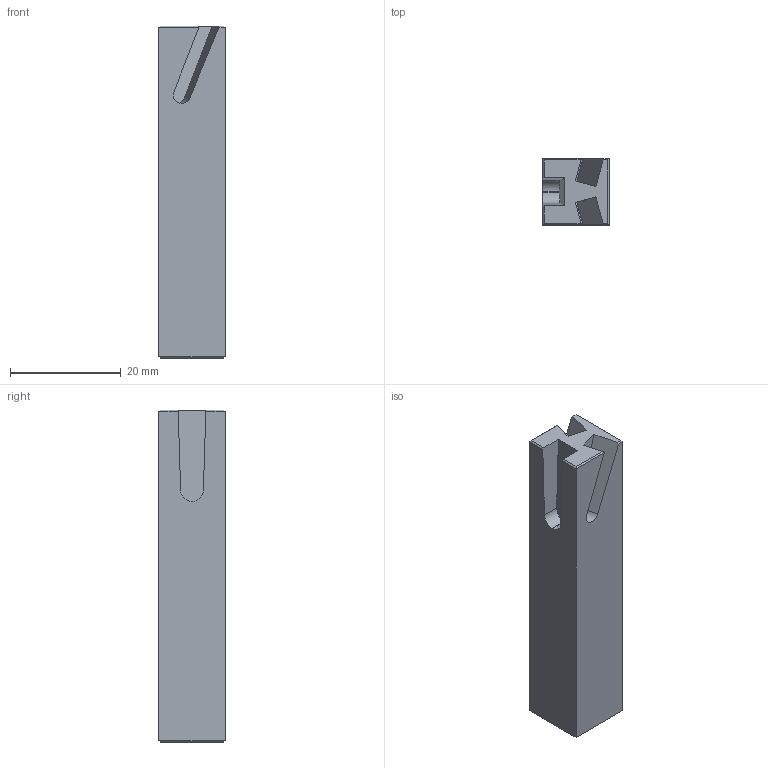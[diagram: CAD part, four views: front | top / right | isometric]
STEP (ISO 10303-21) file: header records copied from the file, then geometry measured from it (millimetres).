
FILE_DESCRIPTION (( 'STEP AP214' ), '1' );
FILE_NAME ('SQ-P12.60.2-3.STEP', '2021-07-13T09:47:50', ( '' ), ( '' ), 'SwSTEP 2.0', 'SolidWorks 2014', '' );
FILE_SCHEMA (( 'AUTOMOTIVE_DESIGN' ));
Length unit declared in the file: millimetre
Products named in the file (1): SQ-P12.60.2-3
Bounding box: 12 x 12 x 60 mm (x, y, z)
Volume: 7293.1 mm3; surface area: 4041.8 mm2
Topology: 1 solids, 1 shells, 38 faces, 98 edges, 61 vertices
Faces by surface type: plane 29, cylinder 7, cone 2
Entity records: 1177 total; most frequent: CARTESIAN_POINT 223, ORIENTED_EDGE 192, DIRECTION 174, EDGE_CURVE 96, VECTOR 78, LINE 78, VERTEX_POINT 61, AXIS2_PLACEMENT_3D 48
